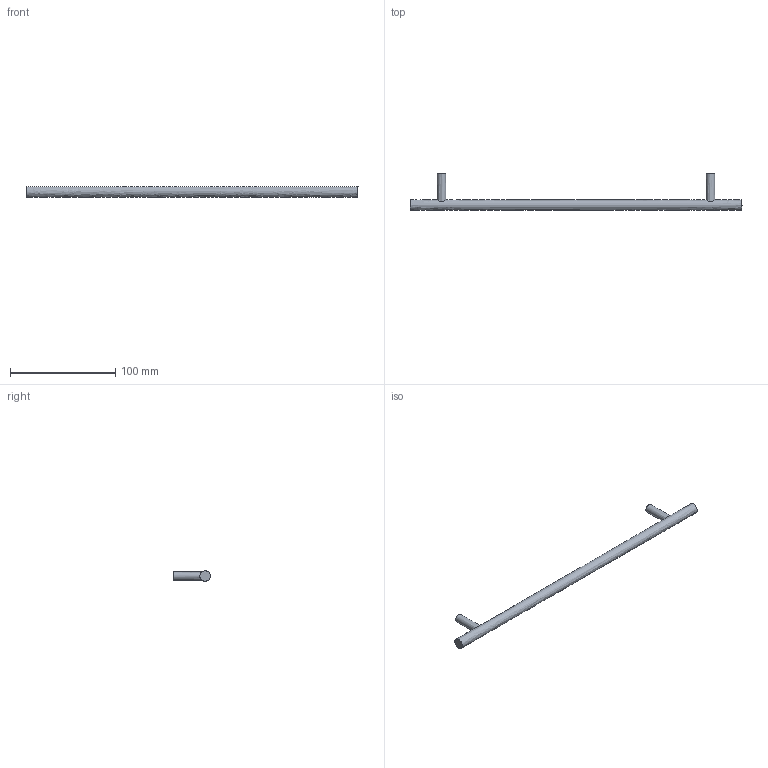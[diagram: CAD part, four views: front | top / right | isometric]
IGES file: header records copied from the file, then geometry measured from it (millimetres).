
Start section: Data from Parasolid IGES Translator 15.0.47, Copyright(c) 2006 Siemens P LM Software. All Rights Reserved.
Global section: file name: 9070988.igs; native system:  By UGS Corp.; preprocessor: XPlus GENERIC/IGES 3.0; author: Noname; organization: Noname; date: 20140122.181232; units: millimetre
Bounding box: 316 x 35 x 10 mm (x, y, z)
Surface area: 11678.8 mm2 (no closed solid volume)
Topology: 0 solids, 0 shells, 11 faces, 30 edges, 22 vertices
Faces by surface type: extrusion 6, revolution 5
